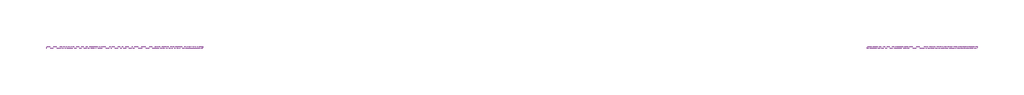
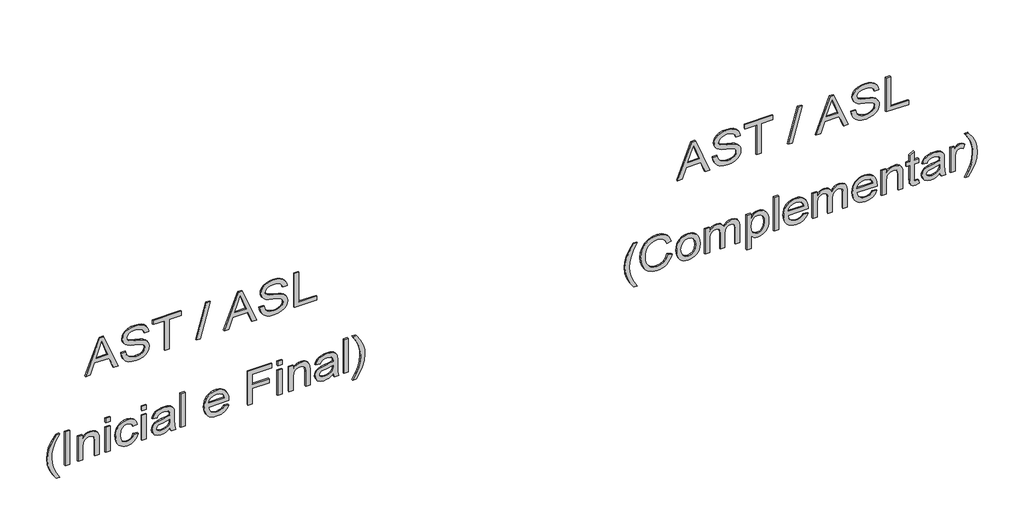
# One storey, part 2 of 5: 2 proxies.
"""IFC4 building model written with IfcOpenShell, lengths in millimetres."""

from ifc_helpers import new_model, si_unit, frame, origin, place, context, project, spatial, polyline, outline, extrude, element, save

model = new_model("IFC4")

# Units and contexts
model_context = context("Model", 3, world=origin())
ifc_project = project(units=[si_unit("LENGTHUNIT", "METRE", prefix="MILLI")], contexts=[model_context])

# Site, building, storey
site = spatial("IfcSite", under=ifc_project)
building = spatial("IfcBuilding", under=site)
storey = spatial("IfcBuildingStorey", under=building, Name="03 - Marelli - Planta Baixa - Painéis Mistos", Elevation=24000.0)

# Proxies
placement = place(None, origin())
element("IfcBuildingElementProxy", 1, Name="300mm Arial", ObjectType="300mm Arial", at=placement, inside=storey, context=model_context, shape_type="SweptSolid", body=[
    extrude(outline(polyline([(30065.9244535, 2921.6887726), (30065.9244535, 2961.4936045), (30160.1022443, 2995.9273592), (30160.1022443, 3120.0507444), (30065.9244535, 3154.5580756), (30065.9244535, 3194.3629074), (30367.293384, 3074.065495), (30367.293384, 3041.986185), (30065.9244535, 2921.6887726)]), holes=[polyline([(30197.7733606, 3009.7597223), (30278.3395176, 3039.2638583), (30329.6222677, 3058.02584), (30271.8647944, 3079.1422666), (30197.7733606, 3106.2919578), (30197.7733606, 3009.7597223)])]), frame((0.0, 8778.3159498, 0.0), z_axis=(0.0, 1.0, 0.0), x_axis=(0.0, 0.0, 1.0)), (0.0, 0.0, 1.0), 10.0),
    extrude(outline(polyline([(30169.5200234, 3220.4825291), (30139.0961824, 3224.9522953), (30111.9832793, 3236.7429133), (30089.7264186, 3255.1094219), (30073.8707046, 3279.3068601), (30064.3793492, 3309.6847159), (30061.215564, 3346.5924771), (30064.1494229, 3376.6576331), (30072.9509996, 3403.5773981), (30087.0408801, 3425.9630175), (30105.83965, 3442.4257368), (30127.6826435, 3452.5516887), (30150.9051944, 3455.927006), (30173.6219076, 3452.9931471), (30193.5059295, 3444.1915704), (30210.3733189, 3429.2095761), (30224.0401351, 3407.7344646), (30232.8509088, 3382.6081244), (30242.9492696, 3341.0742471), (30253.5810593, 3300.8279569), (30263.9921197, 3279.5643775), (30275.6355849, 3270.5696627), (30290.1117414, 3267.5714245), (30307.0894955, 3271.8020674), (30321.381711, 3284.4939963), (30331.0937957, 3306.4381573), (30334.3311572, 3338.4254968), (30331.0570075, 3369.6770722), (30321.2345582, 3392.2098445), (30305.0109622, 3406.6308187), (30282.5333723, 3413.5470002), (30282.5333723, 3451.2181165), (30307.4941657, 3446.9690794), (30329.6958441, 3436.2821075), (30347.9979733, 3419.3963239), (30361.2601193, 3396.550852), (30369.316735, 3368.7389732), (30372.0022735, 3336.9539688), (30369.4362966, 3307.6153797), (30361.7383659, 3281.1094819), (30349.0832252, 3259.0273651), (30331.6456187, 3242.960119), (30311.0718181, 3233.1652609), (30289.0080954, 3229.9003082), (30269.2712264, 3232.5398615), (30251.5577083, 3240.4585214), (30236.198635, 3253.7482585), (30223.5251003, 3272.5010432), (30214.4660061, 3295.5396532), (30204.9470595, 3331.5461034), (30190.5628735, 3386.3973089), (30182.7545782, 3402.4737521), (30173.4563607, 3412.0018958), (30162.5578566, 3416.6923912), (30149.9487012, 3418.2558897), (30137.0084521, 3416.1681594), (30124.6752082, 3409.9049684), (30113.9330539, 3399.3743463), (30105.7660736, 3384.4843226), (30100.6065286, 3366.1086169), (30098.8866803, 3345.1209491), (30101.1583516, 3321.2821958), (30107.9733656, 3299.9450401), (30118.4763965, 3282.4890394), (30131.8121189, 3270.2937513), (30148.615129, 3262.4762589), (30169.5200234, 3258.1536454), (30169.5200234, 3220.4825291)])), frame((0.0, 8778.3159498, 0.0), z_axis=(0.0, 1.0, 0.0), x_axis=(0.0, 0.0, 1.0)), (0.0, 0.0, 1.0), 10.0),
    extrude(outline(polyline([(30065.9244535, 3587.7759131), (30065.9244535, 3625.4470294), (30329.6222677, 3625.4470294), (30329.6222677, 3724.3337097), (30367.293384, 3724.3337097), (30367.293384, 3488.8892328), (30329.6222677, 3488.8892328), (30329.6222677, 3587.7759131), (30065.9244535, 3587.7759131)])), frame((0.0, 8778.3159498, 0.0), z_axis=(0.0, 1.0, 0.0), x_axis=(0.0, 0.0, 1.0)), (0.0, 0.0, 1.0), 10.0),
    extrude(outline(polyline([(30065.9244535, 3851.4737272), (30065.9244535, 3885.4660236), (30367.293384, 3970.2260353), (30367.293384, 3936.2337389), (30065.9244535, 3851.4737272)])), frame((0.0, 8778.3159498, 0.0), z_axis=(0.0, 1.0, 0.0), x_axis=(0.0, 0.0, 1.0)), (0.0, 0.0, 1.0), 10.0),
    extrude(outline(polyline([(30065.9244535, 4084.7844886), (30065.9244535, 4124.5893205), (30160.1022443, 4159.0230752), (30160.1022443, 4283.1464604), (30065.9244535, 4317.6537915), (30065.9244535, 4357.4586234), (30367.293384, 4237.161211), (30367.293384, 4205.081901), (30065.9244535, 4084.7844886)]), holes=[polyline([(30197.7733606, 4172.8554382), (30278.3395176, 4202.3595742), (30329.6222677, 4221.121556), (30271.8647944, 4242.2379825), (30197.7733606, 4269.3876738), (30197.7733606, 4172.8554382)])]), frame((0.0, 8778.3159498, 0.0), z_axis=(0.0, 1.0, 0.0), x_axis=(0.0, 0.0, 1.0)), (0.0, 0.0, 1.0), 10.0),
    extrude(outline(polyline([(30169.5200234, 4383.5782451), (30139.0961824, 4388.0480113), (30111.9832793, 4399.8386292), (30089.7264186, 4418.2051379), (30073.8707046, 4442.4025761), (30064.3793492, 4472.7804318), (30061.215564, 4509.688193), (30064.1494229, 4539.7533491), (30072.9509996, 4566.6731141), (30087.0408801, 4589.0587335), (30105.83965, 4605.5214527), (30127.6826435, 4615.6474047), (30150.9051944, 4619.022722), (30173.6219076, 4616.0888631), (30193.5059295, 4607.2872863), (30210.3733189, 4592.3052921), (30224.0401351, 4570.8301806), (30232.8509088, 4545.7038403), (30242.9492696, 4504.1699631), (30253.5810593, 4463.9236728), (30263.9921197, 4442.6600935), (30275.6355849, 4433.6653787), (30290.1117414, 4430.6671404), (30307.0894955, 4434.8977834), (30321.381711, 4447.5897122), (30331.0937957, 4469.5338732), (30334.3311572, 4501.5212127), (30331.0570075, 4532.7727882), (30321.2345582, 4555.3055604), (30305.0109622, 4569.7265346), (30282.5333723, 4576.6427161), (30282.5333723, 4614.3138324), (30307.4941657, 4610.0647954), (30329.6958441, 4599.3778234), (30347.9979733, 4582.4920398), (30361.2601193, 4559.6465679), (30369.316735, 4531.8346891), (30372.0022735, 4500.0496847), (30369.4362966, 4470.7110956), (30361.7383659, 4444.2051979), (30349.0832252, 4422.1230811), (30331.6456187, 4406.055835), (30311.0718181, 4396.2609768), (30289.0080954, 4392.9960241), (30269.2712264, 4395.6355774), (30251.5577083, 4403.5542374), (30236.198635, 4416.8439745), (30223.5251003, 4435.5967592), (30214.4660061, 4458.6353691), (30204.9470595, 4494.6418194), (30190.5628735, 4549.4930249), (30182.7545782, 4565.5694681), (30173.4563607, 4575.0976117), (30162.5578566, 4579.7881072), (30149.9487012, 4581.3516057), (30137.0084521, 4579.2638753), (30124.6752082, 4573.0006844), (30113.9330539, 4562.4700623), (30105.7660736, 4547.5800385), (30100.6065286, 4529.2043328), (30098.8866803, 4508.216665), (30101.1583516, 4484.3779117), (30107.9733656, 4463.040756), (30118.4763965, 4445.5847553), (30131.8121189, 4433.3894672), (30148.615129, 4425.5719748), (30169.5200234, 4421.2493614), (30169.5200234, 4383.5782451)])), frame((0.0, 8778.3159498, 0.0), z_axis=(0.0, 1.0, 0.0), x_axis=(0.0, 0.0, 1.0)), (0.0, 0.0, 1.0), 10.0),
    extrude(outline(polyline([(30065.9244535, 4675.5293964), (30065.9244535, 4863.884978), (30103.5955698, 4863.884978), (30103.5955698, 4713.2005127), (30367.293384, 4713.2005127), (30367.293384, 4675.5293964), (30065.9244535, 4675.5293964)])), frame((0.0, 8778.3159498, 0.0), z_axis=(0.0, 1.0, 0.0), x_axis=(0.0, 0.0, 1.0)), (0.0, 0.0, 1.0), 10.0),
    extrude(outline(polyline([(29249.3155348, 2674.2513427), (29249.3155348, 2702.5046799), (29297.5540614, 2673.6627315), (29345.8109821, 2653.0613397), (29394.0862969, 2640.7005047), (29442.3800058, 2636.5802264), (29480.2534572, 2638.9530652), (29517.9429677, 2646.0715818), (29575.7740173, 2667.2615848), (29635.4444769, 2702.5046799), (29635.4444769, 2674.2513427), (29584.934279, 2639.5600705), (29534.2033518, 2615.2430706), (29489.4137189, 2602.9926002), (29442.600735, 2598.9091101), (29389.2210575, 2604.3721577), (29337.68079, 2620.7613006), (29290.2791949, 2645.0599063), (29249.3155348, 2674.2513427)])), frame((0.0, 8778.3159498, 0.0), z_axis=(0.0, 1.0, 0.0), x_axis=(0.0, 0.0, 1.0)), (0.0, 0.0, 1.0), 10.0),
    extrude(outline(polyline([(2787.2646916, 8778.3159498), (2749.5935753, 8778.3159498), (2749.5935753, 8788.3159498), (2787.2646916, 8788.3159498), (2787.2646916, 8778.3159498)])), frame((0.0, 0.0, 29334.0755465), z_axis=(0.0, 0.0, 1.0), x_axis=(1.0, 0.0, 0.0)), (0.0, 0.0, 1.0), 301.3689304),
    extrude(outline(polyline([(29334.0755465, 2857.8980347), (29334.0755465, 2895.569151), (29451.5034793, 2895.569151), (29486.2131456, 2899.8641733), (29498.5877762, 2905.2329511), (29507.6422718, 2912.7492401), (29518.7339139, 2931.5572071), (29522.431128, 2953.6209298), (29520.7848561, 2967.5176722), (29515.8460403, 2979.4830341), (29508.1481095, 2988.8180397), (29498.2244927, 2994.8237133), (29464.8943839, 2999.1647208), (29334.0755465, 2999.1647208), (29334.0755465, 3036.8358371), (29469.9711555, 3036.8358371), (29506.391473, 3034.8492743), (29534.0929872, 3023.5552971), (29544.6328064, 3013.4569363), (29552.9285454, 2999.2750854), (29558.3088196, 2982.2697402), (29560.1022443, 2963.7008965), (29557.8765582, 2942.7224257), (29551.1995, 2924.3743112), (29540.0710697, 2908.6565529), (29524.4912672, 2895.569151), (29555.3933548, 2895.569151), (29555.3933548, 2857.8980347), (29334.0755465, 2857.8980347)])), frame((0.0, 8778.3159498, 0.0), z_axis=(0.0, 1.0, 0.0), x_axis=(0.0, 0.0, 1.0)), (0.0, 0.0, 1.0), 10.0),
    extrude(outline(polyline([(3126.3047383, 8778.3159498), (3088.633622, 8778.3159498), (3088.633622, 8788.3159498), (3126.3047383, 8788.3159498), (3126.3047383, 8778.3159498)])), frame((0.0, 0.0, 29597.7733606), z_axis=(0.0, 0.0, 1.0), x_axis=(1.0, 0.0, 0.0)), (0.0, 0.0, 1.0), 37.6711163),
    extrude(outline(polyline([(3126.3047383, 8778.3159498), (3088.633622, 8778.3159498), (3088.633622, 8788.3159498), (3126.3047383, 8788.3159498), (3126.3047383, 8778.3159498)])), frame((0.0, 0.0, 29334.0755465), z_axis=(0.0, 0.0, 1.0), x_axis=(1.0, 0.0, 0.0)), (0.0, 0.0, 1.0), 221.3178083),
    extrude(outline(polyline([(29414.1266686, 3324.0780989), (29393.2493654, 3317.6493611), (29378.5892679, 3306.015093), (29369.9256469, 3290.0214232), (29367.0377732, 3270.5144804), (29371.6638893, 3246.4825891), (29385.5422376, 3227.5090752), (29409.6477053, 3215.1758313), (29444.9551798, 3211.06475), (29479.7936048, 3215.2678018), (29503.816299, 3227.8769572), (29517.7774208, 3247.199959), (29522.431128, 3271.54455), (29520.0674862, 3288.0348605), (29512.9765607, 3301.8948146), (29501.1951398, 3312.5358013), (29484.7600117, 3319.3692094), (29489.4689012, 3357.0403257), (29519.4512838, 3346.7856151), (29541.7081445, 3328.5294711), (29555.5037194, 3303.0812341), (29560.1022443, 3271.2502444), (29556.7545181, 3244.6063909), (29546.7113397, 3220.0042825), (29529.9635118, 3199.439679), (29506.5018376, 3184.9083402), (29477.448357, 3176.2723103), (29443.9251102, 3173.3936337), (29417.8675687, 3175.0789931), (29395.024396, 3180.1350713), (29375.3955923, 3188.5618682), (29358.9811575, 3200.359384), (29346.0248135, 3214.9344088), (29336.7702821, 3231.6937329), (29331.2175632, 3250.6373564), (29329.3666569, 3271.7652792), (29334.6733547, 3304.3964122), (29350.593448, 3331.5093152), (29375.9129264, 3351.2461843), (29409.4177791, 3361.7492153), (29414.1266686, 3324.0780989)])), frame((0.0, 8778.3159498, 0.0), z_axis=(0.0, 1.0, 0.0), x_axis=(0.0, 0.0, 1.0)), (0.0, 0.0, 1.0), 10.0),
    extrude(outline(polyline([(3432.3825583, 8778.3159498), (3394.711442, 8778.3159498), (3394.711442, 8788.3159498), (3432.3825583, 8788.3159498), (3432.3825583, 8778.3159498)])), frame((0.0, 0.0, 29597.7733606), z_axis=(0.0, 0.0, 1.0), x_axis=(1.0, 0.0, 0.0)), (0.0, 0.0, 1.0), 37.6711163),
    extrude(outline(polyline([(3432.3825583, 8778.3159498), (3394.711442, 8778.3159498), (3394.711442, 8788.3159498), (3432.3825583, 8788.3159498), (3432.3825583, 8778.3159498)])), frame((0.0, 0.0, 29334.0755465), z_axis=(0.0, 0.0, 1.0), x_axis=(1.0, 0.0, 0.0)), (0.0, 0.0, 1.0), 221.3178083),
    extrude(outline(polyline([(29362.3288837, 3630.1559189), (29334.0755465, 3639.573698), (29334.0755465, 3677.2448143), (29365.7501862, 3669.7400216), (29431.1963932, 3667.8270352), (29478.0645594, 3667.8270352), (29511.0267861, 3665.9876253), (29525.1442577, 3661.4442826), (29536.5945848, 3654.4361306), (29545.856014, 3643.8687203), (29553.406792, 3628.6476028), (29558.4283812, 3608.4600783), (29560.1022443, 3582.9934472), (29558.207652, 3556.4415641), (29552.5238752, 3533.2925896), (29543.3452194, 3514.365061), (29530.9659903, 3500.4775156), (29514.7791825, 3490.7194457), (29494.1777908, 3484.1803432), (29489.4689012, 3521.8514596), (29505.1314772, 3529.3378582), (29515.1838527, 3540.0248301), (29520.6193092, 3555.6966031), (29522.431128, 3578.1374048), (29519.7088012, 3602.3808283), (29511.5418209, 3619.7816467), (29500.5421493, 3627.5623509), (29483.7299421, 3630.1559189), (29475.3422326, 3629.9351897), (29468.3524747, 3603.1165923), (29462.3927864, 3564.5993474), (29456.7274037, 3532.0050026), (29444.3665686, 3505.6278636), (29434.8752131, 3495.0236651), (29422.7351073, 3486.6819408), (29408.5532564, 3481.2740755), (29392.9366657, 3479.4714537), (29367.6079903, 3484.2447226), (29347.2457219, 3498.5645293), (29333.8364232, 3521.7870802), (29329.3666569, 3553.2685819), (29331.224461, 3574.1366881), (29336.7978732, 3593.6252368), (29346.896234, 3612.1572923), (29362.3288837, 3630.1559189)]), holes=[polyline([(29437.6711163, 3630.1559189), (29427.0025384, 3629.9351897), (29410.0799667, 3628.4452677), (29397.8662844, 3623.9755014), (29386.0112871, 3613.8955347), (29376.0508821, 3599.4009841), (29369.2910505, 3581.5219192), (29367.0377732, 3561.2884094), (29369.0795183, 3542.2045309), (29375.2047535, 3528.3629709), (29384.3834093, 3519.9476702), (29395.5854161, 3517.14257), (29410.0799667, 3522.2929179), (29420.0127805, 3536.9714096), (29426.1196217, 3569.3818133), (29437.6711163, 3630.1559189)])]), frame((0.0, 8778.3159498, 0.0), z_axis=(0.0, 1.0, 0.0), x_axis=(0.0, 0.0, 1.0)), (0.0, 0.0, 1.0), 10.0),
    extrude(outline(polyline([(3757.2959365, 8778.3159498), (3719.6248202, 8778.3159498), (3719.6248202, 8788.3159498), (3757.2959365, 8788.3159498), (3757.2959365, 8778.3159498)])), frame((0.0, 0.0, 29334.0755465), z_axis=(0.0, 0.0, 1.0), x_axis=(1.0, 0.0, 0.0)), (0.0, 0.0, 1.0), 301.3689304),
    extrude(outline(polyline([(29400.0, 4086.4767457), (29385.1191733, 4075.9185325), (29374.9104479, 4062.1965341), (29369.0059419, 4045.3107505), (29367.0377732, 4025.2611818), (29371.2868103, 3998.5989342), (29384.0339214, 3976.7375466), (29404.7640718, 3961.5900054), (29432.9622268, 3955.0692971), (29432.9622268, 4124.3685913), (29443.1157698, 4124.5893205), (29469.3687487, 4122.8027935), (29492.5039277, 4117.4432127), (29512.5213067, 4108.510578), (29529.4208859, 4096.0048894), (29542.8439802, 4080.6849036), (29552.4319047, 4063.3093771), (29558.1846594, 4043.87831), (29560.1022443, 4022.3917022), (29558.1800609, 4000.1900238), (29552.4135106, 3980.1588491), (29542.8025935, 3962.2981783), (29529.3473095, 3946.6080112), (29512.4109422, 3933.8287104), (29492.3567749, 3924.7006384), (29469.1848077, 3919.2237952), (29442.8950406, 3917.3981808), (29417.467497, 3919.2054011), (29395.0427901, 3924.627062), (29375.62092, 3933.6631635), (29359.2018867, 3946.3137056), (29346.1489737, 3962.0452594), (29336.8254644, 3980.324396), (29331.2313588, 4001.1511155), (29329.3666569, 4024.5254178), (29333.6892704, 4060.1823801), (29346.6571107, 4088.8679787), (29367.4608375, 4110.1039669), (29395.2911105, 4123.4120981), (29400.0, 4086.4767457)]), holes=[polyline([(29470.6333431, 3955.0692971), (29491.8693312, 3961.2589116), (29508.3412476, 3975.8546298), (29518.9086579, 3996.8514947), (29522.431128, 4022.2445494), (29518.0165441, 4049.8724872), (29504.7727922, 4071.8350423), (29490.535759, 4081.8230385), (29470.6333431, 4086.9182041), (29470.6333431, 3955.0692971)])]), frame((0.0, 8778.3159498, 0.0), z_axis=(0.0, 1.0, 0.0), x_axis=(0.0, 0.0, 1.0)), (0.0, 0.0, 1.0), 10.0),
    extrude(outline(polyline([(29334.0755465, 4284.6915648), (29334.0755465, 4322.3626811), (29470.6333431, 4322.3626811), (29470.6333431, 4463.6293672), (29508.3044594, 4463.6293672), (29508.3044594, 4322.3626811), (29597.7733606, 4322.3626811), (29597.7733606, 4487.1738149), (29635.4444769, 4487.1738149), (29635.4444769, 4284.6915648), (29334.0755465, 4284.6915648)])), frame((0.0, 8778.3159498, 0.0), z_axis=(0.0, 1.0, 0.0), x_axis=(0.0, 0.0, 1.0)), (0.0, 0.0, 1.0), 10.0),
    extrude(outline(polyline([(4571.9338266, 8778.3159498), (4534.2627103, 8778.3159498), (4534.2627103, 8788.3159498), (4571.9338266, 8788.3159498), (4571.9338266, 8778.3159498)])), frame((0.0, 0.0, 29597.7733606), z_axis=(0.0, 0.0, 1.0), x_axis=(1.0, 0.0, 0.0)), (0.0, 0.0, 1.0), 37.6711163),
    extrude(outline(polyline([(4571.9338266, 8778.3159498), (4534.2627103, 8778.3159498), (4534.2627103, 8788.3159498), (4571.9338266, 8788.3159498), (4571.9338266, 8778.3159498)])), frame((0.0, 0.0, 29334.0755465), z_axis=(0.0, 0.0, 1.0), x_axis=(1.0, 0.0, 0.0)), (0.0, 0.0, 1.0), 221.3178083),
    extrude(outline(polyline([(29334.0755465, 4628.440501), (29334.0755465, 4666.1116174), (29451.5034793, 4666.1116174), (29486.2131456, 4670.4066396), (29498.5877762, 4675.7754175), (29507.6422718, 4683.2917065), (29518.7339139, 4702.0996735), (29522.431128, 4724.1633962), (29520.7848561, 4738.0601386), (29515.8460403, 4750.0255005), (29508.1481095, 4759.3605061), (29498.2244927, 4765.3661796), (29464.8943839, 4769.7071872), (29334.0755465, 4769.7071872), (29334.0755465, 4807.3783035), (29469.9711555, 4807.3783035), (29506.391473, 4805.3917407), (29534.0929872, 4794.0977635), (29544.6328064, 4783.9994027), (29552.9285454, 4769.8175518), (29558.3088196, 4752.8122066), (29560.1022443, 4734.2433629), (29557.8765582, 4713.2648921), (29551.1995, 4694.9167776), (29540.0710697, 4679.1990193), (29524.4912672, 4666.1116174), (29555.3933548, 4666.1116174), (29555.3933548, 4628.440501), (29334.0755465, 4628.440501)])), frame((0.0, 8778.3159498, 0.0), z_axis=(0.0, 1.0, 0.0), x_axis=(0.0, 0.0, 1.0)), (0.0, 0.0, 1.0), 10.0),
    extrude(outline(polyline([(29362.3288837, 5000.4427746), (29334.0755465, 5009.8605536), (29334.0755465, 5047.5316699), (29365.7501862, 5040.0268772), (29431.1963932, 5038.1138909), (29478.0645594, 5038.1138909), (29511.0267861, 5036.2744809), (29525.1442577, 5031.7311383), (29536.5945848, 5024.7229862), (29545.856014, 5014.1555759), (29553.406792, 4998.9344584), (29558.4283812, 4978.7469339), (29560.1022443, 4953.2803028), (29558.207652, 4926.7284198), (29552.5238752, 4903.5794452), (29543.3452194, 4884.6519166), (29530.9659903, 4870.7643713), (29514.7791825, 4861.0063013), (29494.1777908, 4854.4671989), (29489.4689012, 4892.1383152), (29505.1314772, 4899.6247138), (29515.1838527, 4910.3116857), (29520.6193092, 4925.9834587), (29522.431128, 4948.4242604), (29519.7088012, 4972.6676839), (29511.5418209, 4990.0685023), (29500.5421493, 4997.8492065), (29483.7299421, 5000.4427746), (29475.3422326, 5000.2220454), (29468.3524747, 4973.4034479), (29462.3927864, 4934.886203), (29456.7274037, 4902.2918583), (29444.3665686, 4875.9147192), (29434.8752131, 4865.3105207), (29422.7351073, 4856.9687964), (29408.5532564, 4851.5609311), (29392.9366657, 4849.7583093), (29367.6079903, 4854.5315782), (29347.2457219, 4868.8513849), (29333.8364232, 4892.0739358), (29329.3666569, 4923.5554376), (29331.224461, 4944.4235438), (29336.7978732, 4963.9120924), (29346.896234, 4982.444148), (29362.3288837, 5000.4427746)]), holes=[polyline([(29437.6711163, 5000.4427746), (29427.0025384, 5000.2220454), (29410.0799667, 4998.7321233), (29397.8662844, 4994.262357), (29386.0112871, 4984.1823904), (29376.0508821, 4969.6878398), (29369.2910505, 4951.8087748), (29367.0377732, 4931.5752651), (29369.0795183, 4912.4913866), (29375.2047535, 4898.6498265), (29384.3834093, 4890.2345259), (29395.5854161, 4887.4294256), (29410.0799667, 4892.5797736), (29420.0127805, 4907.2582652), (29426.1196217, 4939.668669), (29437.6711163, 5000.4427746)])]), frame((0.0, 8778.3159498, 0.0), z_axis=(0.0, 1.0, 0.0), x_axis=(0.0, 0.0, 1.0)), (0.0, 0.0, 1.0), 10.0),
    extrude(outline(polyline([(5127.5827921, 8778.3159498), (5089.9116758, 8778.3159498), (5089.9116758, 8788.3159498), (5127.5827921, 8788.3159498), (5127.5827921, 8778.3159498)])), frame((0.0, 0.0, 29334.0755465), z_axis=(0.0, 0.0, 1.0), x_axis=(1.0, 0.0, 0.0)), (0.0, 0.0, 1.0), 301.3689304),
    extrude(outline(polyline([(29249.3155348, 5193.5072456), (29290.2791949, 5222.5607262), (29337.68079, 5246.8869231), (29389.2210575, 5263.3588395), (29442.600735, 5268.8494782), (29489.4137189, 5264.7659881), (29534.2033518, 5252.5155177), (29584.934279, 5228.1985178), (29635.4444769, 5193.5072456), (29635.4444769, 5165.2539084), (29575.1854061, 5200.7177327), (29546.8400984, 5212.6922917), (29517.2807801, 5221.6870065), (29479.9775458, 5228.8055231), (29442.3800058, 5231.1783619), (29394.0862969, 5227.0580836), (29345.8109821, 5214.6972486), (29297.5540614, 5194.0958568), (29249.3155348, 5165.2539084), (29249.3155348, 5193.5072456)])), frame((0.0, 8778.3159498, 0.0), z_axis=(0.0, 1.0, 0.0), x_axis=(0.0, 0.0, 1.0)), (0.0, 0.0, 1.0), 10.0),
])
element("IfcBuildingElementProxy", 2, Name="300mm Arial", ObjectType="300mm Arial", at=placement, inside=storey, context=model_context, shape_type="SweptSolid", body=[
    extrude(outline(polyline([(30065.9244535, 7893.4354354), (30065.9244535, 7933.2402673), (30160.1022443, 7967.674022), (30160.1022443, 8091.7974072), (30065.9244535, 8126.3047383), (30065.9244535, 8166.1095702), (30367.293384, 8045.8121578), (30367.293384, 8013.7328478), (30065.9244535, 7893.4354354)]), holes=[polyline([(30197.7733606, 7981.506385), (30278.3395176, 8011.010521), (30329.6222677, 8029.7725028), (30271.8647944, 8050.8889293), (30197.7733606, 8078.0386206), (30197.7733606, 7981.506385)])]), frame((0.0, 8778.3159498, 0.0), z_axis=(0.0, 1.0, 0.0), x_axis=(0.0, 0.0, 1.0)), (0.0, 0.0, 1.0), 10.0),
    extrude(outline(polyline([(30169.5200234, 8192.2291919), (30139.0961824, 8196.6989581), (30111.9832793, 8208.4895761), (30089.7264186, 8226.8560847), (30073.8707046, 8251.0535229), (30064.3793492, 8281.4313787), (30061.215564, 8318.3391398), (30064.1494229, 8348.4042959), (30072.9509996, 8375.3240609), (30087.0408801, 8397.7096803), (30105.83965, 8414.1723996), (30127.6826435, 8424.2983515), (30150.9051944, 8427.6736688), (30173.6219076, 8424.7398099), (30193.5059295, 8415.9382331), (30210.3733189, 8400.9562389), (30224.0401351, 8379.4811274), (30232.8509088, 8354.3547871), (30242.9492696, 8312.8209099), (30253.5810593, 8272.5746196), (30263.9921197, 8251.3110403), (30275.6355849, 8242.3163255), (30290.1117414, 8239.3180873), (30307.0894955, 8243.5487302), (30321.381711, 8256.240659), (30331.0937957, 8278.18482), (30334.3311572, 8310.1721595), (30331.0570075, 8341.423735), (30321.2345582, 8363.9565072), (30305.0109622, 8378.3774814), (30282.5333723, 8385.2936629), (30282.5333723, 8422.9647792), (30307.4941657, 8418.7157422), (30329.6958441, 8408.0287702), (30347.9979733, 8391.1429867), (30361.2601193, 8368.2975148), (30369.316735, 8340.4856359), (30372.0022735, 8308.7006315), (30369.4362966, 8279.3620424), (30361.7383659, 8252.8561447), (30349.0832252, 8230.7740279), (30331.6456187, 8214.7067818), (30311.0718181, 8204.9119237), (30289.0080954, 8201.646971), (30269.2712264, 8204.2865243), (30251.5577083, 8212.2051842), (30236.198635, 8225.4949213), (30223.5251003, 8244.247706), (30214.4660061, 8267.2863159), (30204.9470595, 8303.2927662), (30190.5628735, 8358.1439717), (30182.7545782, 8374.2204149), (30173.4563607, 8383.7485586), (30162.5578566, 8388.439054), (30149.9487012, 8390.0025525), (30137.0084521, 8387.9148222), (30124.6752082, 8381.6516312), (30113.9330539, 8371.1210091), (30105.7660736, 8356.2309853), (30100.6065286, 8337.8552797), (30098.8866803, 8316.8676118), (30101.1583516, 8293.0288586), (30107.9733656, 8271.6917028), (30118.4763965, 8254.2357022), (30131.8121189, 8242.040414), (30148.615129, 8234.2229216), (30169.5200234, 8229.9003082), (30169.5200234, 8192.2291919)])), frame((0.0, 8778.3159498, 0.0), z_axis=(0.0, 1.0, 0.0), x_axis=(0.0, 0.0, 1.0)), (0.0, 0.0, 1.0), 10.0),
    extrude(outline(polyline([(30065.9244535, 8559.5225759), (30065.9244535, 8597.1936922), (30329.6222677, 8597.1936922), (30329.6222677, 8696.0803725), (30367.293384, 8696.0803725), (30367.293384, 8460.6358956), (30329.6222677, 8460.6358956), (30329.6222677, 8559.5225759), (30065.9244535, 8559.5225759)])), frame((0.0, 8778.3159498, 0.0), z_axis=(0.0, 1.0, 0.0), x_axis=(0.0, 0.0, 1.0)), (0.0, 0.0, 1.0), 10.0),
    extrude(outline(polyline([(30065.9244535, 8823.22039), (30065.9244535, 8857.2126864), (30367.293384, 8941.972698), (30367.293384, 8907.9804017), (30065.9244535, 8823.22039)])), frame((0.0, 8778.3159498, 0.0), z_axis=(0.0, 1.0, 0.0), x_axis=(0.0, 0.0, 1.0)), (0.0, 0.0, 1.0), 10.0),
    extrude(outline(polyline([(30065.9244535, 9056.5311513), (30065.9244535, 9096.3359832), (30160.1022443, 9130.769738), (30160.1022443, 9254.8931231), (30065.9244535, 9289.4004543), (30065.9244535, 9329.2052862), (30367.293384, 9208.9078737), (30367.293384, 9176.8285638), (30065.9244535, 9056.5311513)]), holes=[polyline([(30197.7733606, 9144.602101), (30278.3395176, 9174.106237), (30329.6222677, 9192.8682188), (30271.8647944, 9213.9846453), (30197.7733606, 9241.1343365), (30197.7733606, 9144.602101)])]), frame((0.0, 8778.3159498, 0.0), z_axis=(0.0, 1.0, 0.0), x_axis=(0.0, 0.0, 1.0)), (0.0, 0.0, 1.0), 10.0),
    extrude(outline(polyline([(30169.5200234, 9355.3249078), (30139.0961824, 9359.7946741), (30111.9832793, 9371.585292), (30089.7264186, 9389.9518006), (30073.8707046, 9414.1492389), (30064.3793492, 9444.5270946), (30061.215564, 9481.4348558), (30064.1494229, 9511.5000118), (30072.9509996, 9538.4197768), (30087.0408801, 9560.8053962), (30105.83965, 9577.2681155), (30127.6826435, 9587.3940674), (30150.9051944, 9590.7693847), (30173.6219076, 9587.8355258), (30193.5059295, 9579.0339491), (30210.3733189, 9564.0519548), (30224.0401351, 9542.5768434), (30232.8509088, 9517.4505031), (30242.9492696, 9475.9166258), (30253.5810593, 9435.6703356), (30263.9921197, 9414.4067563), (30275.6355849, 9405.4120415), (30290.1117414, 9402.4138032), (30307.0894955, 9406.6444462), (30321.381711, 9419.336375), (30331.0937957, 9441.280536), (30334.3311572, 9473.2678755), (30331.0570075, 9504.519451), (30321.2345582, 9527.0522232), (30305.0109622, 9541.4731974), (30282.5333723, 9548.3893789), (30282.5333723, 9586.0604952), (30307.4941657, 9581.8114582), (30329.6958441, 9571.1244862), (30347.9979733, 9554.2387026), (30361.2601193, 9531.3932307), (30369.316735, 9503.5813519), (30372.0022735, 9471.7963475), (30369.4362966, 9442.4577584), (30361.7383659, 9415.9518606), (30349.0832252, 9393.8697439), (30331.6456187, 9377.8024977), (30311.0718181, 9368.0076396), (30289.0080954, 9364.7426869), (30269.2712264, 9367.3822402), (30251.5577083, 9375.3009002), (30236.198635, 9388.5906372), (30223.5251003, 9407.3434219), (30214.4660061, 9430.3820319), (30204.9470595, 9466.3884822), (30190.5628735, 9521.2396876), (30182.7545782, 9537.3161308), (30173.4563607, 9546.8442745), (30162.5578566, 9551.53477), (30149.9487012, 9553.0982684), (30137.0084521, 9551.0105381), (30124.6752082, 9544.7473471), (30113.9330539, 9534.216725), (30105.7660736, 9519.3267013), (30100.6065286, 9500.9509956), (30098.8866803, 9479.9633278), (30101.1583516, 9456.1245745), (30107.9733656, 9434.7874188), (30118.4763965, 9417.3314181), (30131.8121189, 9405.13613), (30148.615129, 9397.3186376), (30169.5200234, 9392.9960241), (30169.5200234, 9355.3249078)])), frame((0.0, 8778.3159498, 0.0), z_axis=(0.0, 1.0, 0.0), x_axis=(0.0, 0.0, 1.0)), (0.0, 0.0, 1.0), 10.0),
    extrude(outline(polyline([(30065.9244535, 9647.2760592), (30065.9244535, 9835.6316407), (30103.5955698, 9835.6316407), (30103.5955698, 9684.9471755), (30367.293384, 9684.9471755), (30367.293384, 9647.2760592), (30065.9244535, 9647.2760592)])), frame((0.0, 8778.3159498, 0.0), z_axis=(0.0, 1.0, 0.0), x_axis=(0.0, 0.0, 1.0)), (0.0, 0.0, 1.0), 10.0),
    extrude(outline(polyline([(29249.3155348, 7528.275767), (29249.3155348, 7556.5291042), (29297.5540614, 7527.6871558), (29345.8109821, 7507.0857641), (29394.0862969, 7494.724929), (29442.3800058, 7490.6046507), (29480.2534572, 7492.9774895), (29517.9429677, 7500.0960061), (29575.7740173, 7521.2860091), (29635.4444769, 7556.5291042), (29635.4444769, 7528.275767), (29584.934279, 7493.5844948), (29534.2033518, 7469.267495), (29489.4137189, 7457.0170245), (29442.600735, 7452.9335344), (29389.2210575, 7458.396582), (29337.68079, 7474.7857249), (29290.2791949, 7499.0843307), (29249.3155348, 7528.275767)])), frame((0.0, 8778.3159498, 0.0), z_axis=(0.0, 1.0, 0.0), x_axis=(0.0, 0.0, 1.0)), (0.0, 0.0, 1.0), 10.0),
    extrude(outline(polyline([(29441.2027835, 7810.8091393), (29408.9395325, 7798.6230482), (29385.7261786, 7778.8401939), (29371.7098746, 7752.6377988), (29367.0377732, 7721.1930852), (29370.4682728, 7694.218138), (29380.7597717, 7669.2113593), (29397.9858461, 7648.3524502), (29422.2200725, 7633.8211114), (29452.3128197, 7625.2954462), (29487.1144565, 7622.4535577), (29515.5333406, 7624.8539878), (29543.1060961, 7632.0552778), (29567.4966724, 7645.179468), (29586.3690188, 7665.3485984), (29598.4539423, 7691.9280725), (29602.4822501, 7724.283294), (29598.8494154, 7752.3526902), (29587.9509113, 7775.1981621), (29569.1061561, 7793.0404389), (29541.6345681, 7806.1002497), (29550.6108888, 7843.771366), (29588.4291579, 7827.1339028), (29603.751443, 7815.3317886), (29616.6824952, 7801.2074192), (29626.9510013, 7785.0275092), (29634.2856486, 7767.058773), (29640.1533665, 7725.754822), (29635.6192209, 7687.8997647), (29622.0167841, 7653.3556453), (29599.6771499, 7624.2285884), (29568.9314122, 7602.6247182), (29530.9843844, 7589.2430106), (29487.0408801, 7584.7824414), (29445.3782441, 7588.7279758), (29406.4747231, 7600.564579), (29373.3837376, 7619.9519602), (29349.1587083, 7646.5498284), (29334.3146698, 7681.2502976), (29329.3666569, 7724.9454816), (29331.0014325, 7747.3678892), (29335.9057594, 7767.987675), (29344.0796375, 7786.8048391), (29355.5230668, 7803.8193814), (29370.0796975, 7818.6956095), (29387.5931797, 7831.0978313), (29408.0635135, 7841.0260467), (29431.4906988, 7848.4802556), (29441.2027835, 7810.8091393)])), frame((0.0, 8778.3159498, 0.0), z_axis=(0.0, 1.0, 0.0), x_axis=(0.0, 0.0, 1.0)), (0.0, 0.0, 1.0), 10.0),
    extrude(outline(polyline([(29444.7344506, 7886.1513719), (29418.4124939, 7887.8597239), (29395.3646869, 7892.9847799), (29375.5910296, 7901.52654), (29359.0915221, 7913.4850041), (29346.0868936, 7928.2117802), (29336.7978732, 7945.0584764), (29331.224461, 7964.0250925), (29329.3666569, 7985.1116286), (29332.7419742, 8011.7002998), (29342.8679261, 8036.1368613), (29359.1007192, 8056.7106619), (29380.7965599, 8071.7110503), (29409.767267, 8080.8713119), (29447.8246594, 8083.9247325), (29472.7049786, 8082.1979864), (29494.7388108, 8077.017748), (29513.9261561, 8068.3840175), (29530.2670145, 8056.2967947), (29543.3199275, 8041.4872451), (29552.6434368, 8024.6865342), (29558.2375424, 8005.8946621), (29560.1022443, 7985.1116286), (29558.5709355, 7966.2852675), (29553.9770091, 7948.9488285), (29546.3204651, 7933.1023115), (29535.6013034, 7918.7457167), (29518.830483, 7904.4856908), (29498.095734, 7894.2999581), (29473.3970566, 7888.1885184), (29444.7344506, 7886.1513719)]), holes=[polyline([(29444.808027, 7923.8224882), (29478.8830968, 7928.1818898), (29503.1173232, 7941.2600948), (29517.6026768, 7960.9417815), (29522.431128, 7985.1116286), (29517.5842827, 8009.0331553), (29503.0437468, 8028.705645), (29479.0854319, 8041.8666234), (29445.9852494, 8046.2536162), (29411.1468245, 8041.8942145), (29386.535519, 8028.8160096), (29371.9122097, 8009.1711111), (29367.0377732, 7985.1116286), (29371.8846185, 7960.9417815), (29386.4251544, 7941.2600948), (29410.7145631, 7928.1818898), (29444.808027, 7923.8224882)])]), frame((0.0, 8778.3159498, 0.0), z_axis=(0.0, 1.0, 0.0), x_axis=(0.0, 0.0, 1.0)), (0.0, 0.0, 1.0), 10.0),
    extrude(outline(polyline([(29334.0755465, 8126.3047383), (29334.0755465, 8163.9758546), (29445.6909438, 8163.9758546), (29471.6082304, 8165.4105944), (29490.6461236, 8169.7148138), (29504.368122, 8177.2196065), (29514.3377241, 8188.2560663), (29520.407777, 8201.6285769), (29522.431128, 8216.1415216), (29519.3961015, 8233.2204432), (29510.2910222, 8244.7259526), (29495.0974958, 8251.2650551), (29473.7971282, 8253.4447559), (29334.0755465, 8253.4447559), (29334.0755465, 8291.1158722), (29459.008272, 8291.1158722), (29487.7214617, 8294.8038892), (29507.3479662, 8305.8679402), (29518.6603375, 8322.5054034), (29522.431128, 8342.9136571), (29520.9596, 8354.4743488), (29516.5450161, 8364.4347538), (29509.7300021, 8372.1786698), (29501.0571841, 8377.0898945), (29469.6032735, 8380.5847734), (29334.0755465, 8380.5847734), (29334.0755465, 8418.2558897), (29485.7900813, 8418.2558897), (29518.7615051, 8413.9424733), (29541.8920855, 8401.0022241), (29555.5497046, 8380.0605416), (29560.1022443, 8351.742825), (29557.366122, 8332.2174881), (29549.1577549, 8314.6235317), (29535.4771432, 8298.9609557), (29516.3242869, 8285.2297603), (29534.7643719, 8277.0259918), (29548.5875379, 8264.4812157), (29557.2235677, 8247.6874026), (29560.1022443, 8226.736523), (29557.27875, 8207.183595), (29548.808267, 8189.8747471), (29535.702471, 8175.3066201), (29518.9730372, 8163.9758546), (29555.3933548, 8163.9758546), (29555.3933548, 8126.3047383), (29334.0755465, 8126.3047383)])), frame((0.0, 8778.3159498, 0.0), z_axis=(0.0, 1.0, 0.0), x_axis=(0.0, 0.0, 1.0)), (0.0, 0.0, 1.0), 10.0),
    extrude(outline(polyline([(29249.3155348, 8474.7625642), (29249.3155348, 8512.4336805), (29363.5061061, 8512.4336805), (29349.9956398, 8523.0746672), (29339.0419534, 8536.309222), (29331.785481, 8551.7694628), (29329.3666569, 8569.0875077), (29332.9810975, 8593.5056752), (29343.8244193, 8616.7282261), (29361.4459669, 8636.6674302), (29385.3950848, 8651.2355573), (29414.2094421, 8660.1474986), (29446.4267078, 8663.1181457), (29476.7217901, 8660.4877894), (29504.4784866, 8652.5967206), (29527.9861461, 8639.5369098), (29545.5341173, 8621.4003274), (29556.4602125, 8599.1250726), (29560.1022443, 8573.6492445), (29557.4994792, 8554.5193807), (29549.6911838, 8538.4797257), (29536.6773583, 8524.7209391), (29518.4580024, 8512.4336805), (29555.3933548, 8512.4336805), (29555.3933548, 8474.7625642), (29249.3155348, 8474.7625642)]), holes=[polyline([(29442.968617, 8512.4336805), (29477.1356573, 8516.7838851), (29502.0872537, 8529.8344988), (29517.3451594, 8548.5321013), (29522.431128, 8569.8232717), (29517.6486621, 8591.0316687), (29503.3012642, 8609.0394924), (29479.3521464, 8621.3451451), (29445.7645202, 8625.4470294), (29410.7237602, 8621.2439776), (29386.2412134, 8608.6348222), (29371.8386333, 8590.1395549), (29367.0377732, 8568.2781673), (29371.6730864, 8546.7662677), (29385.5790258, 8528.7308529), (29409.1970499, 8516.5079736), (29442.968617, 8512.4336805)])]), frame((0.0, 8778.3159498, 0.0), z_axis=(0.0, 1.0, 0.0), x_axis=(0.0, 0.0, 1.0)), (0.0, 0.0, 1.0), 10.0),
    extrude(outline(polyline([(8743.1692679, 8778.3159498), (8705.4981515, 8778.3159498), (8705.4981515, 8788.3159498), (8743.1692679, 8788.3159498), (8743.1692679, 8778.3159498)])), frame((0.0, 0.0, 29334.0755465), z_axis=(0.0, 0.0, 1.0), x_axis=(1.0, 0.0, 0.0)), (0.0, 0.0, 1.0), 301.3689304),
    extrude(outline(polyline([(29400.0, 8954.6278387), (29385.1191733, 8944.0696254), (29374.9104479, 8930.347627), (29369.0059419, 8913.4618434), (29367.0377732, 8893.4122747), (29371.2868103, 8866.7500271), (29384.0339214, 8844.8886395), (29404.7640718, 8829.7410984), (29432.9622268, 8823.22039), (29432.9622268, 8992.5196842), (29443.1157698, 8992.7404134), (29469.3687487, 8990.9538864), (29492.5039277, 8985.5943056), (29512.5213067, 8976.6616709), (29529.4208859, 8964.1559824), (29542.8439802, 8948.8359965), (29552.4319047, 8931.46047), (29558.1846594, 8912.0294029), (29560.1022443, 8890.5427951), (29558.1800609, 8868.3411167), (29552.4135106, 8848.3099421), (29542.8025935, 8830.4492712), (29529.3473095, 8814.7591041), (29512.4109422, 8801.9798033), (29492.3567749, 8792.8517313), (29469.1848077, 8787.3748881), (29442.8950406, 8785.5492737), (29417.467497, 8787.356494), (29395.0427901, 8792.7781549), (29375.62092, 8801.8142564), (29359.2018867, 8814.4647985), (29346.1489737, 8830.1963523), (29336.8254644, 8848.475489), (29331.2313588, 8869.3022084), (29329.3666569, 8892.6765107), (29333.6892704, 8928.3334731), (29346.6571107, 8957.0190716), (29367.4608375, 8978.2550598), (29395.2911105, 8991.563191), (29400.0, 8954.6278387)]), holes=[polyline([(29470.6333431, 8823.22039), (29491.8693312, 8829.4100046), (29508.3412476, 8844.0057227), (29518.9086579, 8865.0025876), (29522.431128, 8890.3956423), (29518.0165441, 8918.0235802), (29504.7727922, 8939.9861353), (29490.535759, 8949.9741314), (29470.6333431, 8955.0692971), (29470.6333431, 8823.22039)])]), frame((0.0, 8778.3159498, 0.0), z_axis=(0.0, 1.0, 0.0), x_axis=(0.0, 0.0, 1.0)), (0.0, 0.0, 1.0), 10.0),
    extrude(outline(polyline([(29334.0755465, 9030.4115297), (29334.0755465, 9068.082646), (29445.6909438, 9068.082646), (29471.6082304, 9069.5173858), (29490.6461236, 9073.8216051), (29504.368122, 9081.3263978), (29514.3377241, 9092.3628577), (29520.407777, 9105.7353682), (29522.431128, 9120.2483129), (29519.3961015, 9137.3272345), (29510.2910222, 9148.8327439), (29495.0974958, 9155.3718464), (29473.7971282, 9157.5515472), (29334.0755465, 9157.5515472), (29334.0755465, 9195.2226635), (29459.008272, 9195.2226635), (29487.7214617, 9198.9106805), (29507.3479662, 9209.9747315), (29518.6603375, 9226.6121948), (29522.431128, 9247.0204484), (29520.9596, 9258.5811401), (29516.5450161, 9268.5415452), (29509.7300021, 9276.2854612), (29501.0571841, 9281.1966858), (29469.6032735, 9284.6915648), (29334.0755465, 9284.6915648), (29334.0755465, 9322.3626811), (29485.7900813, 9322.3626811), (29518.7615051, 9318.0492647), (29541.8920855, 9305.1090155), (29555.5497046, 9284.1673329), (29560.1022443, 9255.8496163), (29557.366122, 9236.3242794), (29549.1577549, 9218.730323), (29535.4771432, 9203.0677471), (29516.3242869, 9189.3365516), (29534.7643719, 9181.1327831), (29548.5875379, 9168.5880071), (29557.2235677, 9151.794194), (29560.1022443, 9130.8433144), (29557.27875, 9111.2903863), (29548.808267, 9093.9815385), (29535.702471, 9079.4134114), (29518.9730372, 9068.082646), (29555.3933548, 9068.082646), (29555.3933548, 9030.4115297), (29334.0755465, 9030.4115297)])), frame((0.0, 8778.3159498, 0.0), z_axis=(0.0, 1.0, 0.0), x_axis=(0.0, 0.0, 1.0)), (0.0, 0.0, 1.0), 10.0),
    extrude(outline(polyline([(29400.0, 9533.8212519), (29385.1191733, 9523.2630386), (29374.9104479, 9509.5410402), (29369.0059419, 9492.6552566), (29367.0377732, 9472.6056879), (29371.2868103, 9445.9434403), (29384.0339214, 9424.0820527), (29404.7640718, 9408.9345116), (29432.9622268, 9402.4138032), (29432.9622268, 9571.7130974), (29443.1157698, 9571.9338266), (29469.3687487, 9570.1472996), (29492.5039277, 9564.7877188), (29512.5213067, 9555.8550841), (29529.4208859, 9543.3493956), (29542.8439802, 9528.0294097), (29552.4319047, 9510.6538832), (29558.1846594, 9491.2228161), (29560.1022443, 9469.7362083), (29558.1800609, 9447.5345299), (29552.4135106, 9427.5033553), (29542.8025935, 9409.6426844), (29529.3473095, 9393.9525173), (29512.4109422, 9381.1732165), (29492.3567749, 9372.0451445), (29469.1848077, 9366.5683013), (29442.8950406, 9364.7426869), (29417.467497, 9366.5499072), (29395.0427901, 9371.9715681), (29375.62092, 9381.0076696), (29359.2018867, 9393.6582117), (29346.1489737, 9409.3897655), (29336.8254644, 9427.6689022), (29331.2313588, 9448.4956216), (29329.3666569, 9471.8699239), (29333.6892704, 9507.5268863), (29346.6571107, 9536.2124849), (29367.4608375, 9557.448473), (29395.2911105, 9570.7566042), (29400.0, 9533.8212519)]), holes=[polyline([(29470.6333431, 9402.4138032), (29491.8693312, 9408.6034178), (29508.3412476, 9423.1991359), (29518.9086579, 9444.1960008), (29522.431128, 9469.5890555), (29518.0165441, 9497.2169934), (29504.7727922, 9519.1795485), (29490.535759, 9529.1675446), (29470.6333431, 9534.2627103), (29470.6333431, 9402.4138032)])]), frame((0.0, 8778.3159498, 0.0), z_axis=(0.0, 1.0, 0.0), x_axis=(0.0, 0.0, 1.0)), (0.0, 0.0, 1.0), 10.0),
    extrude(outline(polyline([(29334.0755465, 9609.6049429), (29334.0755465, 9647.2760592), (29451.5034793, 9647.2760592), (29486.2131456, 9651.5710815), (29498.5877762, 9656.9398594), (29507.6422718, 9664.4561484), (29518.7339139, 9683.2641154), (29522.431128, 9705.327838), (29520.7848561, 9719.2245804), (29515.8460403, 9731.1899423), (29508.1481095, 9740.5249479), (29498.2244927, 9746.5306215), (29464.8943839, 9750.871629), (29334.0755465, 9750.871629), (29334.0755465, 9788.5427453), (29469.9711555, 9788.5427453), (29506.391473, 9786.5561826), (29534.0929872, 9775.2622053), (29544.6328064, 9765.1638446), (29552.9285454, 9750.9819936), (29558.3088196, 9733.9766484), (29560.1022443, 9715.4078047), (29557.8765582, 9694.4293339), (29551.1995, 9676.0812194), (29540.0710697, 9660.3634612), (29524.4912672, 9647.2760592), (29555.3933548, 9647.2760592), (29555.3933548, 9609.6049429), (29334.0755465, 9609.6049429)])), frame((0.0, 8778.3159498, 0.0), z_axis=(0.0, 1.0, 0.0), x_axis=(0.0, 0.0, 1.0)), (0.0, 0.0, 1.0), 10.0),
    extrude(outline(polyline([(29365.4926689, 9920.3916524), (29367.0377732, 9903.9841154), (29369.576159, 9891.1450338), (29376.4555523, 9884.7070989), (29395.8797217, 9882.7205361), (29517.7222385, 9882.7205361), (29517.7222385, 9920.3916524), (29555.3933548, 9920.3916524), (29555.3933548, 9882.7205361), (29631.3241986, 9882.7205361), (29609.1777025, 9845.0494198), (29555.3933548, 9845.0494198), (29555.3933548, 9816.7960826), (29517.7222385, 9816.7960826), (29517.7222385, 9845.0494198), (29394.7760757, 9845.0494198), (29367.7919313, 9846.189854), (29352.0281878, 9849.6111565), (29342.849532, 9855.8283623), (29335.6206508, 9865.3565059), (29330.9301554, 9878.8393811), (29329.3666569, 9896.9207811), (29332.9719005, 9925.100542), (29365.4926689, 9920.3916524)])), frame((0.0, 8778.3159498, 0.0), z_axis=(0.0, 1.0, 0.0), x_axis=(0.0, 0.0, 1.0)), (0.0, 0.0, 1.0), 10.0),
    extrude(outline(polyline([(29362.3288837, 10099.3294549), (29334.0755465, 10108.7472339), (29334.0755465, 10146.4183503), (29365.7501862, 10138.9135576), (29431.1963932, 10137.0005712), (29478.0645594, 10137.0005712), (29511.0267861, 10135.1611612), (29525.1442577, 10130.6178186), (29536.5945848, 10123.6096666), (29545.856014, 10113.0422562), (29553.406792, 10097.8211387), (29558.4283812, 10077.6336142), (29560.1022443, 10052.1669831), (29558.207652, 10025.6151001), (29552.5238752, 10002.4661255), (29543.3452194, 9983.5385969), (29530.9659903, 9969.6510516), (29514.7791825, 9959.8929816), (29494.1777908, 9953.3538792), (29489.4689012, 9991.0249955), (29505.1314772, 9998.5113941), (29515.1838527, 10009.1983661), (29520.6193092, 10024.870139), (29522.431128, 10047.3109408), (29519.7088012, 10071.5543642), (29511.5418209, 10088.9551826), (29500.5421493, 10096.7358868), (29483.7299421, 10099.3294549), (29475.3422326, 10099.1087257), (29468.3524747, 10072.2901282), (29462.3927864, 10033.7728833), (29456.7274037, 10001.1785386), (29444.3665686, 9974.8013995), (29434.8752131, 9964.197201), (29422.7351073, 9955.8554768), (29408.5532564, 9950.4476114), (29392.9366657, 9948.6449896), (29367.6079903, 9953.4182585), (29347.2457219, 9967.7380652), (29333.8364232, 9990.9606161), (29329.3666569, 10022.4421179), (29331.224461, 10043.3102241), (29336.7978732, 10062.7987727), (29346.896234, 10081.3308283), (29362.3288837, 10099.3294549)]), holes=[polyline([(29437.6711163, 10099.3294549), (29427.0025384, 10099.1087257), (29410.0799667, 10097.6188036), (29397.8662844, 10093.1490374), (29386.0112871, 10083.0690707), (29376.0508821, 10068.5745201), (29369.2910505, 10050.6954551), (29367.0377732, 10030.4619454), (29369.0795183, 10011.3780669), (29375.2047535, 9997.5365068), (29384.3834093, 9989.1212062), (29395.5854161, 9986.316106), (29410.0799667, 9991.4664539), (29420.0127805, 10006.1449455), (29426.1196217, 10038.5553493), (29437.6711163, 10099.3294549)])]), frame((0.0, 8778.3159498, 0.0), z_axis=(0.0, 1.0, 0.0), x_axis=(0.0, 0.0, 1.0)), (0.0, 0.0, 1.0), 10.0),
    extrude(outline(polyline([(29334.0755465, 10188.7983561), (29334.0755465, 10226.4694724), (29450.3998333, 10226.4694724), (29473.3556698, 10227.9961827), (29494.39852, 10232.5763135), (29506.1339556, 10238.0301641), (29514.9999117, 10246.1511591), (29520.5733239, 10256.2035347), (29522.431128, 10267.4515267), (29520.4997475, 10280.6952785), (29514.7056061, 10293.9390303), (29548.4771733, 10306.5205946), (29557.1959765, 10287.4643072), (29560.1022443, 10268.7023254), (29558.2812284, 10256.4150668), (29552.8181808, 10245.1578778), (29541.6345681, 10233.9374769), (29522.6518572, 10221.7605829), (29555.3933548, 10221.7605829), (29555.3933548, 10188.7983561), (29334.0755465, 10188.7983561)])), frame((0.0, 8778.3159498, 0.0), z_axis=(0.0, 1.0, 0.0), x_axis=(0.0, 0.0, 1.0)), (0.0, 0.0, 1.0), 10.0),
    extrude(outline(polyline([(29249.3155348, 10339.4828213), (29290.2791949, 10368.5363019), (29337.68079, 10392.8624988), (29389.2210575, 10409.3344152), (29442.600735, 10414.8250539), (29489.4137189, 10410.7415638), (29534.2033518, 10398.4910933), (29584.934279, 10374.1740935), (29635.4444769, 10339.4828213), (29635.4444769, 10311.2294841), (29575.1854061, 10346.6933084), (29546.8400984, 10358.6678674), (29517.2807801, 10367.6625822), (29479.9775458, 10374.7810988), (29442.3800058, 10377.1539376), (29394.0862969, 10373.0336593), (29345.8109821, 10360.6728242), (29297.5540614, 10340.0714325), (29249.3155348, 10311.2294841), (29249.3155348, 10339.4828213)])), frame((0.0, 8778.3159498, 0.0), z_axis=(0.0, 1.0, 0.0), x_axis=(0.0, 0.0, 1.0)), (0.0, 0.0, 1.0), 10.0),
])

save(model, "model.ifc")
